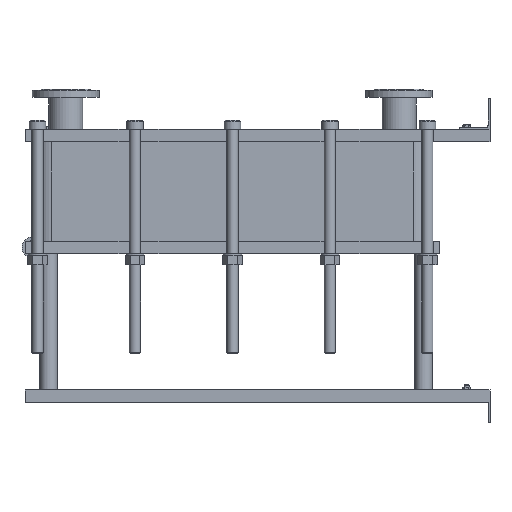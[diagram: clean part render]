
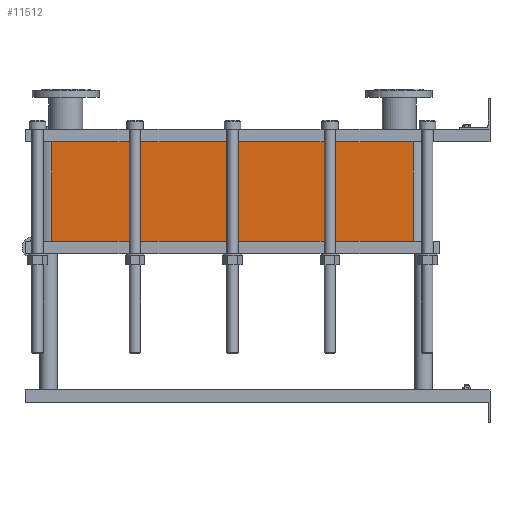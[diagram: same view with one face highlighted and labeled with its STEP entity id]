
A CAD part, left-side view. The second image highlights one B-rep face of the part: STEP entity #11512.
In plain terms, the highlighted planar face has unit normal (-1, 0, 0).
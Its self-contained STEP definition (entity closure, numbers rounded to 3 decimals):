
#1129=LINE('',#23232,#2102);
#1130=LINE('',#23236,#2103);
#1131=LINE('',#23238,#2104);
#1132=LINE('',#23239,#2105);
#2102=VECTOR('',#15887,10.);
#2103=VECTOR('',#15892,10.);
#2104=VECTOR('',#15893,10.);
#2105=VECTOR('',#15894,10.);
#3267=FACE_OUTER_BOUND('',#4093,.T.);
#4093=EDGE_LOOP('',(#10103,#10104,#10105,#10106));
#5642=VERTEX_POINT('',#23229);
#5643=VERTEX_POINT('',#23231);
#5644=VERTEX_POINT('',#23235);
#5645=VERTEX_POINT('',#23237);
#7159=EDGE_CURVE('',#5643,#5642,#1129,.T.);
#7161=EDGE_CURVE('',#5642,#5644,#1130,.T.);
#7162=EDGE_CURVE('',#5645,#5644,#1131,.T.);
#7163=EDGE_CURVE('',#5645,#5643,#1132,.T.);
#10103=ORIENTED_EDGE('',*,*,#7161,.T.);
#10104=ORIENTED_EDGE('',*,*,#7162,.F.);
#10105=ORIENTED_EDGE('',*,*,#7163,.T.);
#10106=ORIENTED_EDGE('',*,*,#7159,.T.);
#10857=PLANE('',#12751);
#11512=ADVANCED_FACE('',(#3267),#10857,.T.);
#12751=AXIS2_PLACEMENT_3D('',#23234,#15890,#15891);
#15887=DIRECTION('',(0.,0.,-1.));
#15890=DIRECTION('center_axis',(-1.,0.,0.));
#15891=DIRECTION('ref_axis',(0.,1.,0.));
#15892=DIRECTION('',(0.,-1.,0.));
#15893=DIRECTION('',(0.,0.,-1.));
#15894=DIRECTION('',(0.,1.,0.));
#23229=CARTESIAN_POINT('',(-200.,1414.,-320.85));
#23231=CARTESIAN_POINT('',(-200.,1414.,0.));
#23232=CARTESIAN_POINT('',(-200.,1414.,0.));
#23234=CARTESIAN_POINT('Origin',(-200.,248.,0.));
#23235=CARTESIAN_POINT('',(-200.,248.,-320.85));
#23236=CARTESIAN_POINT('',(-200.,539.5,-320.85));
#23237=CARTESIAN_POINT('',(-200.,248.,0.));
#23238=CARTESIAN_POINT('',(-200.,248.,0.));
#23239=CARTESIAN_POINT('',(-200.,248.,0.));
